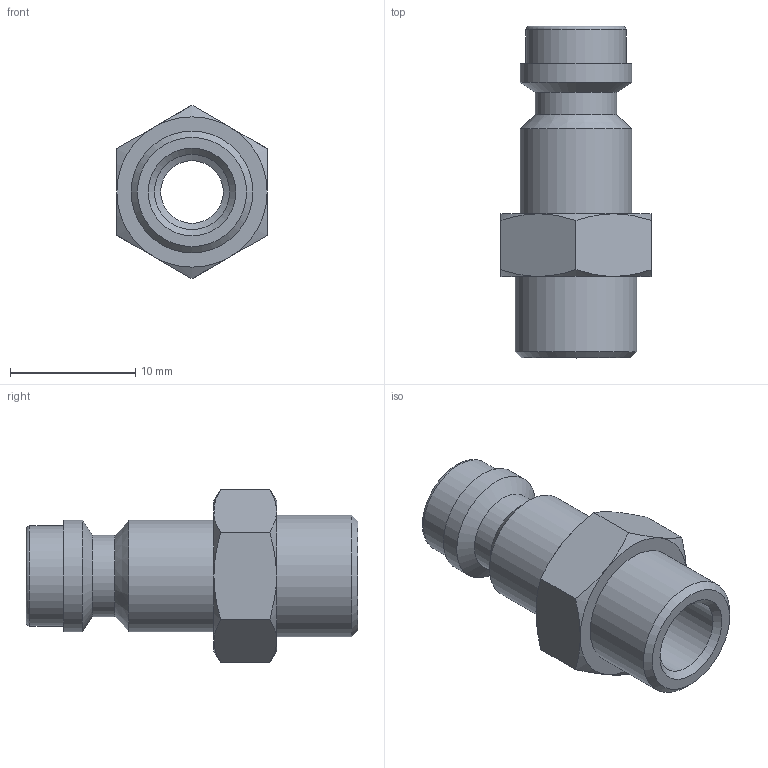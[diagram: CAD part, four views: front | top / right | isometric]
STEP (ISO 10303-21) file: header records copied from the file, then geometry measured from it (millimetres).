
FILE_DESCRIPTION(/* description */ (''),/* implementation_level */ '2;1');
FILE_NAME(/* name */ 'S:\_Tecnico\ArchivioUT\_Disegni3D ingombri\DISEGNI 3D per ingombri\GM\GM600018.stp',/* time_stamp */ '2020-11-26T11:14:30+01:00',/* author */ ('ufficiotecnico3'),/* organization */ (''),/* preprocessor_version */ 'ST-DEVELOPER v18',/* originating_system */ 'Autodesk Inventor 2020',/* authorisation */ '');
FILE_SCHEMA (('AUTOMOTIVE_DESIGN { 1 0 10303 214 3 1 1 }'));
Length unit declared in the file: millimetre
Products named in the file (1): GM600018
Bounding box: 12 x 26.5 x 13.86 mm (x, y, z)
Volume: 1239.6 mm3; surface area: 1473.7 mm2
Topology: 1 solids, 1 shells, 36 faces, 88 edges, 57 vertices
Faces by surface type: cone 17, plane 11, cylinder 7, torus 1
Full cylindrical faces by diameter (mm): 5 x1, 6 x1, 6.5 x1, 8 x1, 8.9 x2, 9.728 x1
Entity records: 1099 total; most frequent: CARTESIAN_POINT 230, DIRECTION 184, ORIENTED_EDGE 176, EDGE_CURVE 88, AXIS2_PLACEMENT_3D 83, VERTEX_POINT 57, CIRCLE 46, EDGE_LOOP 41
